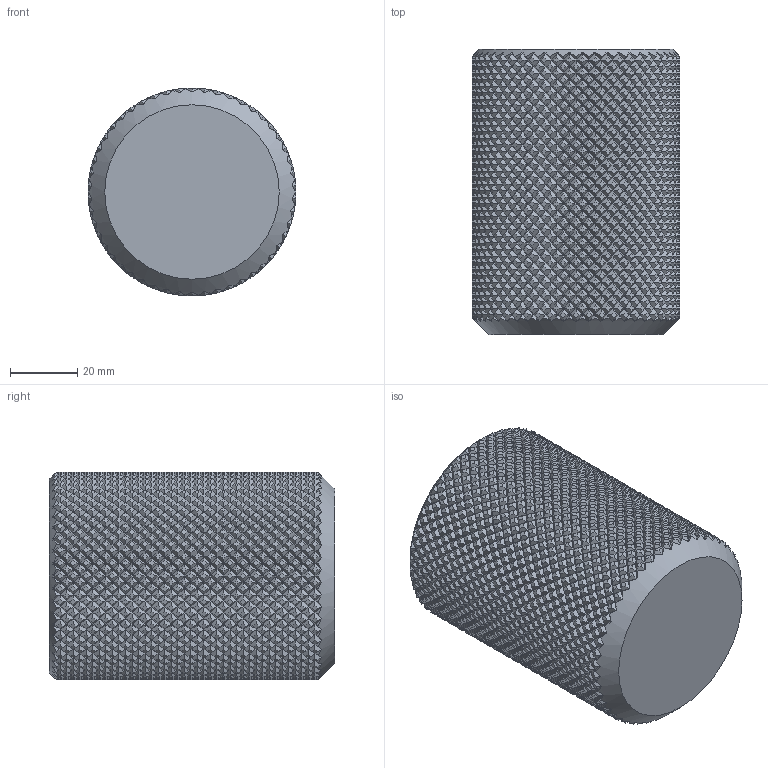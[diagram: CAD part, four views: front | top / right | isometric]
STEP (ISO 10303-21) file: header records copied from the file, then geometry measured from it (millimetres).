
FILE_DESCRIPTION(/* description */ ('KNURLED CIRCULAR PENCIL HOLDER','CAx-IF Rec.Pracs.---Representation and Presentation of Product Manufacturing Information (PMI)---4.0---2014-10-13'),/* implementation_level */ '2;1');
FILE_NAME(/* name */ 'KNURLED CIRCULAR PENCILE HOLDER.stp',/* time_stamp */ '2025-11-27T15:34:25Z',/* author */ ('SEELE DESIGN'),/* organization */ (''),/* preprocessor_version */ 'ST-DEVELOPER v20.1',/* originating_system */ 'Autodesk Inventor 2026',/* authorisation */ 'ALL RIGHTS RESERVED');
FILE_SCHEMA (('AP242_MANAGED_MODEL_BASED_3D_ENGINEERING_MIM_LF { 1 0 10303 442 2 1 4 }'));
Products named in the file (1): KNURLED CIRCULAR PENCILE HOLDER
Bounding box: 62 x 85 x 62 mm (x, y, z)
Volume: 60849.5 mm3; surface area: 44215.3 mm2
Topology: 1 solids, 1 shells, 10508 faces, 21264 edges, 10759 vertices
Faces by surface type: bspline 8400, cylinder 2051, cone 54, plane 3
Full cylindrical faces by diameter (mm): 54 x1
Entity records: 393423 total; most frequent: CARTESIAN_POINT 248688, ORIENTED_EDGE 42528, EDGE_CURVE 21264, B_SPLINE_CURVE_WITH_KNOTS 21150, VERTEX_POINT 10759, EDGE_LOOP 10509, FACE_OUTER_BOUND 10508, ADVANCED_FACE 10508
